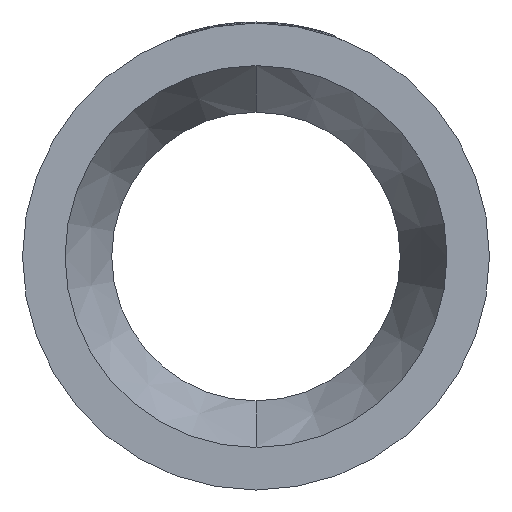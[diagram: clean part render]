
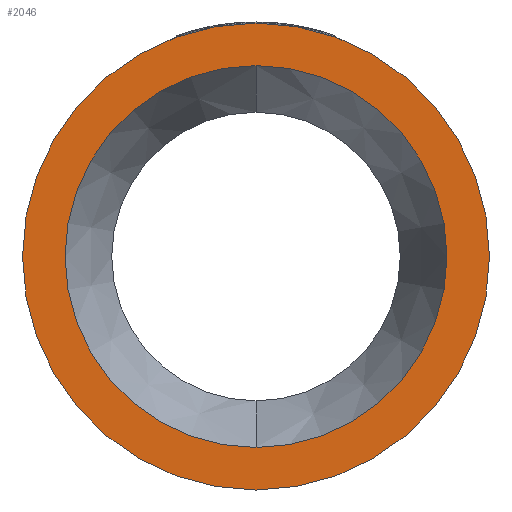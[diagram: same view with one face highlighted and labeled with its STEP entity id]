
A CAD part, left-side view. The second image highlights one B-rep face of the part: STEP entity #2046.
In plain terms, the highlighted planar face has unit normal (-1, 0, 0).
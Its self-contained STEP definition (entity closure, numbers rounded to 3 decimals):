
#61 = AXIS2_PLACEMENT_3D ( 'NONE', #65, #3492, #3477 ) ;
#65 = CARTESIAN_POINT ( 'NONE',  ( 0., 0., 0. ) ) ;
#160 = CIRCLE ( 'NONE', #2730, 100. ) ;
#265 = DIRECTION ( 'NONE',  ( 0., 0., -1. ) ) ;
#272 = DIRECTION ( 'NONE',  ( 1., 0., 0. ) ) ;
#278 = CARTESIAN_POINT ( 'NONE',  ( 0., 81.8, 0. ) ) ;
#301 = EDGE_CURVE ( 'NONE', #1856, #3170, #858, .T. ) ;
#426 = PLANE ( 'NONE',  #740 ) ;
#593 = EDGE_CURVE ( 'NONE', #3170, #1856, #1247, .T. ) ;
#740 = AXIS2_PLACEMENT_3D ( 'NONE', #278, #272, #265 ) ;
#851 = DIRECTION ( 'NONE',  ( 0., 0., 1. ) ) ;
#858 = CIRCLE ( 'NONE', #3008, 81.8 ) ;
#863 = DIRECTION ( 'NONE',  ( -1., 0., 0. ) ) ;
#868 = CARTESIAN_POINT ( 'NONE',  ( 0., 0., 0. ) ) ;
#900 = FACE_OUTER_BOUND ( 'NONE', #2470, .T. ) ;
#1247 = CIRCLE ( 'NONE', #2144, 81.8 ) ;
#1451 = VERTEX_POINT ( 'NONE', #3171 ) ;
#1476 = EDGE_LOOP ( 'NONE', ( #2277, #1957 ) ) ;
#1725 = EDGE_CURVE ( 'NONE', #1451, #1881, #160, .T. ) ;
#1805 = ORIENTED_EDGE ( 'NONE', *, *, #2773, .T. ) ;
#1856 = VERTEX_POINT ( 'NONE', #2108 ) ;
#1881 = VERTEX_POINT ( 'NONE', #2084 ) ;
#1957 = ORIENTED_EDGE ( 'NONE', *, *, #301, .F. ) ;
#2046 = ADVANCED_FACE ( 'NONE', ( #2133, #900 ), #426, .F. ) ;
#2047 = CARTESIAN_POINT ( 'NONE',  ( 0., 0., 81.8 ) ) ;
#2084 = CARTESIAN_POINT ( 'NONE',  ( 0., 0., 100. ) ) ;
#2108 = CARTESIAN_POINT ( 'NONE',  ( 0., 0., -81.8 ) ) ;
#2133 = FACE_BOUND ( 'NONE', #1476, .T. ) ;
#2144 = AXIS2_PLACEMENT_3D ( 'NONE', #3431, #3430, #3424 ) ;
#2277 = ORIENTED_EDGE ( 'NONE', *, *, #593, .F. ) ;
#2377 = DIRECTION ( 'NONE',  ( 0., 0., 1. ) ) ;
#2381 = DIRECTION ( 'NONE',  ( -1., 0., 0. ) ) ;
#2391 = CARTESIAN_POINT ( 'NONE',  ( 0., 0., 0. ) ) ;
#2470 = EDGE_LOOP ( 'NONE', ( #1805, #2745 ) ) ;
#2687 = CIRCLE ( 'NONE', #61, 100. ) ;
#2730 = AXIS2_PLACEMENT_3D ( 'NONE', #2391, #2381, #2377 ) ;
#2745 = ORIENTED_EDGE ( 'NONE', *, *, #1725, .T. ) ;
#2773 = EDGE_CURVE ( 'NONE', #1881, #1451, #2687, .T. ) ;
#3008 = AXIS2_PLACEMENT_3D ( 'NONE', #868, #863, #851 ) ;
#3170 = VERTEX_POINT ( 'NONE', #2047 ) ;
#3171 = CARTESIAN_POINT ( 'NONE',  ( 0., 0., -100. ) ) ;
#3424 = DIRECTION ( 'NONE',  ( 0., 0., 1. ) ) ;
#3430 = DIRECTION ( 'NONE',  ( -1., 0., 0. ) ) ;
#3431 = CARTESIAN_POINT ( 'NONE',  ( 0., 0., 0. ) ) ;
#3477 = DIRECTION ( 'NONE',  ( 0., 0., 1. ) ) ;
#3492 = DIRECTION ( 'NONE',  ( -1., 0., 0. ) ) ;
